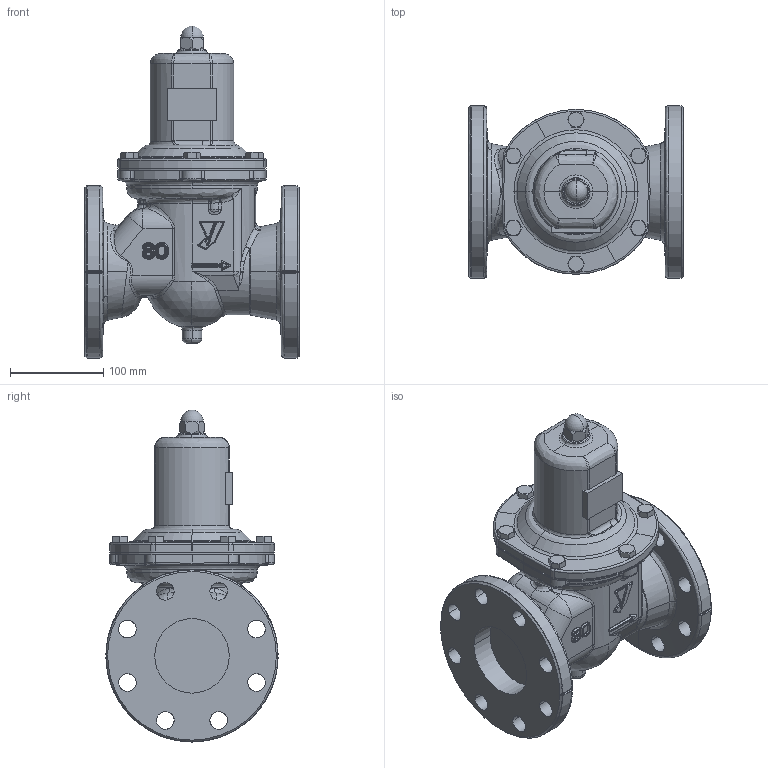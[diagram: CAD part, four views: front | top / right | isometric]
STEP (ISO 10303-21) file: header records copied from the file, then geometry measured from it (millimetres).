
FILE_DESCRIPTION( (''), '2;1');
FILE_NAME ('PC1027.4860.GD-27-NE 80A_23169.stp','2025-07-25T17:16:04',(''),(''),'spGate 19.8.4 (****-****-****-****)','','');
FILE_SCHEMA (('AUTOMOTIVE_DESIGN'));
Length unit declared in the file: millimetre
Products named in the file (6): Assembly; GD-27_80A_弁箱; 保護筒 65-80A; 四角プラグ R1／8; GD-27-NE 80A_M1; GD-27-NE 80A_M2
Assembly tree (10 placements, depth 2):
  Assembly
    GD-27_80A_弁箱
    保護筒 65-80A
    四角プラグ R1／8
    GD-27-NE 80A_M1
    GD-27-NE 80A_M2  x6
Bounding box: 230 x 184.97 x 356.5 mm (x, y, z)
Volume: 3569377 mm3; surface area: 407519.2 mm2
Topology: 10 solids, 10 shells, 834 faces, 2018 edges, 1159 vertices
Faces by surface type: bspline 381, cylinder 240, plane 162, sphere 51
Entity records: 64250 total; most frequent: CARTESIAN_POINT 36119, ORIENTED_EDGE 3402, DIRECTION 2539, COLOUR_RGB 2420, PRESENTATION_STYLE_ASSIGNMENT 2420, STYLED_ITEM 2420, EDGE_CURVE 1701, DRAUGHTING_PRE_DEFINED_CURVE_FONT 1701
